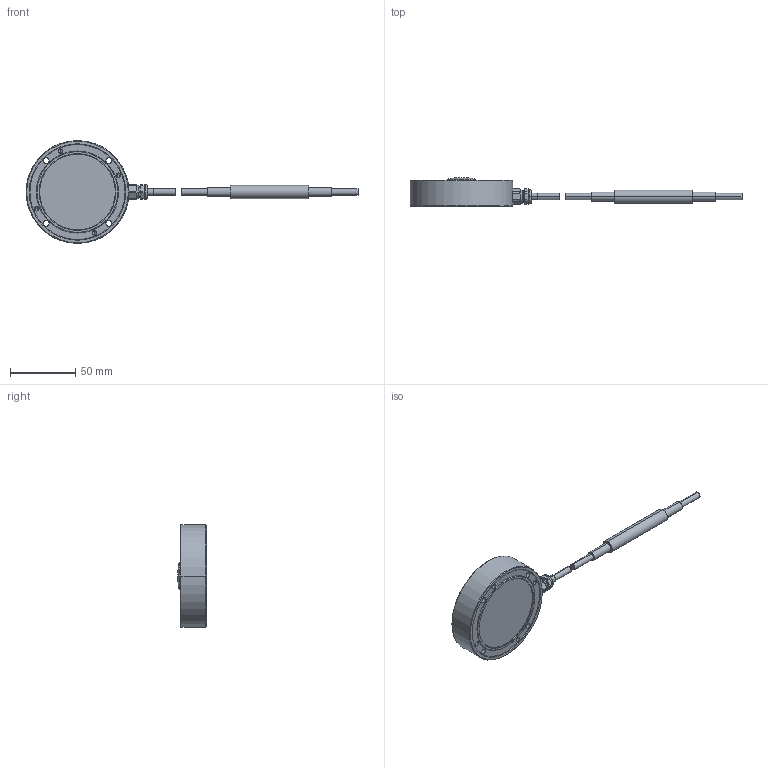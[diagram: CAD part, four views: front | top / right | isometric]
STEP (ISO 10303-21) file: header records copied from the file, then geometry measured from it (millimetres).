
FILE_DESCRIPTION(('STEP AP203'),'1');
FILE_NAME('C:/TPO v2/SharedFS/Outgoing/burster_8527-5500_43avgzzqo1qwnybdhy98ka3q9.stp','2013-08-27T13:24:32',('TraceParts'),('TraceParts S.A.'),'XStep 1.0',' ',' ');
FILE_SCHEMA(('CONFIG_CONTROL_DESIGN'));
Length unit declared in the file: millimetre
Products named in the file (2): 1; 2
Bounding box: 254.75 x 22 x 79 mm (x, y, z)
Volume: 101091.1 mm3; surface area: 21129.1 mm2
Topology: 2 solids, 4 shells, 173 faces, 406 edges, 258 vertices
Faces by surface type: cylinder 84, plane 42, cone 30, torus 16, bspline 1
Entity records: 5141 total; most frequent: CARTESIAN_POINT 970, DIRECTION 955, ORIENTED_EDGE 790, AXIS2_PLACEMENT_3D 414, EDGE_CURVE 395, VERTEX_POINT 256, CIRCLE 240, EDGE_LOOP 211
